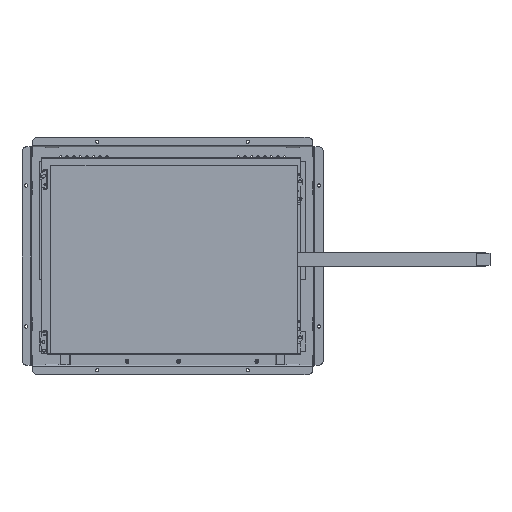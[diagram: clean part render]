
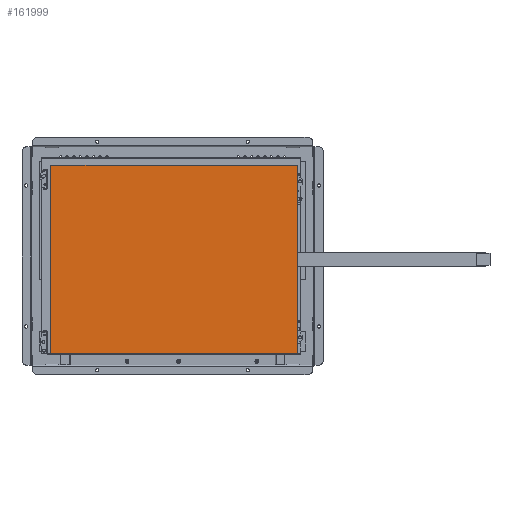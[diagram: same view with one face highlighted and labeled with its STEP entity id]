
A CAD part, top view. The second image highlights one B-rep face of the part: STEP entity #161999.
In plain terms, the highlighted planar face has unit normal (0, 0, 1).
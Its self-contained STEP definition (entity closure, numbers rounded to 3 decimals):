
#6842 = CARTESIAN_POINT ( 'NONE',  ( 132.5, -103.4, 32.63 ) ) ;
#12502 = DIRECTION ( 'NONE',  ( 1., 0., 0. ) ) ;
#21787 = ORIENTED_EDGE ( 'NONE', *, *, #207532, .T. ) ;
#36412 = EDGE_LOOP ( 'NONE', ( #21787, #170835, #177609, #204265 ) ) ;
#38643 = CARTESIAN_POINT ( 'NONE',  ( -129.3, -103.4, 32.63 ) ) ;
#51265 = CARTESIAN_POINT ( 'NONE',  ( 132.5, 96.4, 32.63 ) ) ;
#53250 = CARTESIAN_POINT ( 'NONE',  ( 132.5, 96.4, 32.63 ) ) ;
#54403 = VERTEX_POINT ( 'NONE', #38643 ) ;
#65406 = EDGE_CURVE ( 'NONE', #92152, #161112, #178033, .T. ) ;
#71606 = AXIS2_PLACEMENT_3D ( 'NONE', #53250, #91198, #223225 ) ;
#74650 = VECTOR ( 'NONE', #12502, 1000. ) ;
#77620 = DIRECTION ( 'NONE',  ( 0., -1., 0. ) ) ;
#81198 = DIRECTION ( 'NONE',  ( 0., 1., 0. ) ) ;
#83650 = VECTOR ( 'NONE', #236590, 1000. ) ;
#91198 = DIRECTION ( 'NONE',  ( 0., 0., 1. ) ) ;
#92152 = VERTEX_POINT ( 'NONE', #51265 ) ;
#96795 = EDGE_CURVE ( 'NONE', #54403, #171364, #130661, .T. ) ;
#123587 = CARTESIAN_POINT ( 'NONE',  ( 132.5, 96.4, 32.63 ) ) ;
#130661 = LINE ( 'NONE', #219686, #74650 ) ;
#137763 = CARTESIAN_POINT ( 'NONE',  ( 132.5, -103.4, 32.63 ) ) ;
#145822 = LINE ( 'NONE', #6842, #151779 ) ;
#151779 = VECTOR ( 'NONE', #81198, 1000. ) ;
#161112 = VERTEX_POINT ( 'NONE', #170862 ) ;
#161999 = ADVANCED_FACE ( 'NONE', ( #182737 ), #184362, .T. ) ;
#170835 = ORIENTED_EDGE ( 'NONE', *, *, #65406, .T. ) ;
#170862 = CARTESIAN_POINT ( 'NONE',  ( -129.3, 96.4, 32.63 ) ) ;
#171364 = VERTEX_POINT ( 'NONE', #137763 ) ;
#177609 = ORIENTED_EDGE ( 'NONE', *, *, #181083, .T. ) ;
#178033 = LINE ( 'NONE', #123587, #83650 ) ;
#181083 = EDGE_CURVE ( 'NONE', #161112, #54403, #240416, .T. ) ;
#182737 = FACE_OUTER_BOUND ( 'NONE', #36412, .T. ) ;
#184362 = PLANE ( 'NONE',  #71606 ) ;
#204265 = ORIENTED_EDGE ( 'NONE', *, *, #96795, .T. ) ;
#207532 = EDGE_CURVE ( 'NONE', #171364, #92152, #145822, .T. ) ;
#219686 = CARTESIAN_POINT ( 'NONE',  ( 132.5, -103.4, 32.63 ) ) ;
#223225 = DIRECTION ( 'NONE',  ( 0., 1., 0. ) ) ;
#228589 = CARTESIAN_POINT ( 'NONE',  ( -129.3, -103.4, 32.63 ) ) ;
#228701 = VECTOR ( 'NONE', #77620, 1000. ) ;
#236590 = DIRECTION ( 'NONE',  ( -1., 0., 0. ) ) ;
#240416 = LINE ( 'NONE', #228589, #228701 ) ;
